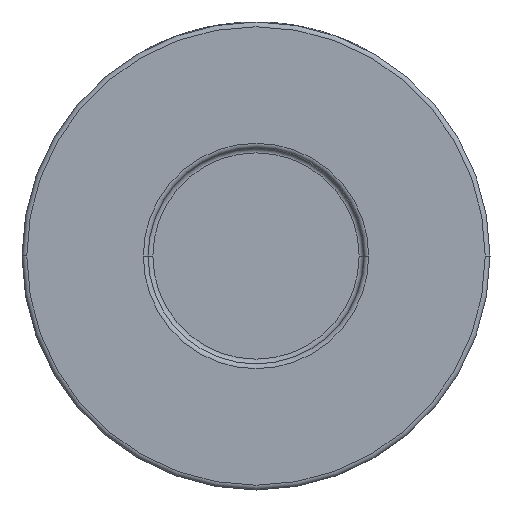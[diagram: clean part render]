
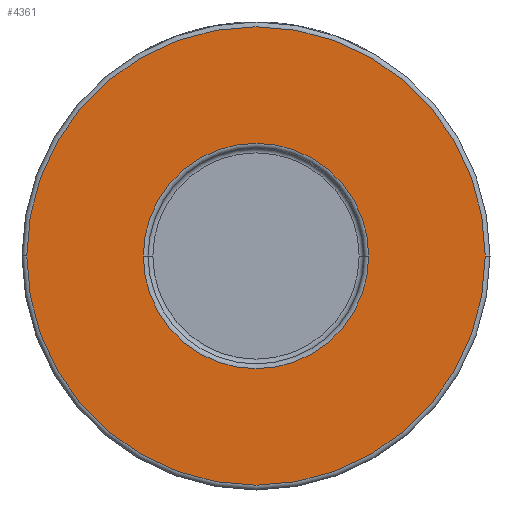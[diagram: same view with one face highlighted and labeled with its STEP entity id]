
A CAD part, front view. The second image highlights one B-rep face of the part: STEP entity #4361.
In plain terms, the highlighted planar face has unit normal (0, -1, 0).
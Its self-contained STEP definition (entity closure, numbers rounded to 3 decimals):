
#49 = FACE_BOUND ( 'NONE', #2276, .T. ) ;
#66 = AXIS2_PLACEMENT_3D ( 'NONE', #641, #1794, #2837 ) ;
#68 = EDGE_LOOP ( 'NONE', ( #570, #4187 ) ) ;
#92 = EDGE_CURVE ( 'NONE', #3881, #2507, #2479, .T. ) ;
#233 = AXIS2_PLACEMENT_3D ( 'NONE', #2953, #450, #3368 ) ;
#300 = DIRECTION ( 'NONE',  ( 0., 1., 0. ) ) ;
#387 = CIRCLE ( 'NONE', #233, 48. ) ;
#450 = DIRECTION ( 'NONE',  ( 0., -1., 0. ) ) ;
#490 = CARTESIAN_POINT ( 'NONE',  ( 49., -32., 0. ) ) ;
#570 = ORIENTED_EDGE ( 'NONE', *, *, #2323, .T. ) ;
#641 = CARTESIAN_POINT ( 'NONE',  ( 0., -32., 0. ) ) ;
#1279 = EDGE_CURVE ( 'NONE', #4058, #1418, #3206, .T. ) ;
#1395 = EDGE_CURVE ( 'NONE', #1418, #4058, #3712, .T. ) ;
#1418 = VERTEX_POINT ( 'NONE', #1645 ) ;
#1592 = CARTESIAN_POINT ( 'NONE',  ( 0., -32., 0. ) ) ;
#1645 = CARTESIAN_POINT ( 'NONE',  ( 23.6, -32., 0. ) ) ;
#1794 = DIRECTION ( 'NONE',  ( 0., -1., 0. ) ) ;
#2276 = EDGE_LOOP ( 'NONE', ( #3399, #4659 ) ) ;
#2323 = EDGE_CURVE ( 'NONE', #2507, #3881, #387, .T. ) ;
#2348 = AXIS2_PLACEMENT_3D ( 'NONE', #490, #3367, #2926 ) ;
#2417 = CARTESIAN_POINT ( 'NONE',  ( 0., -32., 0. ) ) ;
#2440 = CARTESIAN_POINT ( 'NONE',  ( -48., -32., 0. ) ) ;
#2479 = CIRCLE ( 'NONE', #66, 48. ) ;
#2507 = VERTEX_POINT ( 'NONE', #4155 ) ;
#2777 = DIRECTION ( 'NONE',  ( 1., 0., 0. ) ) ;
#2837 = DIRECTION ( 'NONE',  ( 1., 0., 0. ) ) ;
#2926 = DIRECTION ( 'NONE',  ( 1., 0., 0. ) ) ;
#2953 = CARTESIAN_POINT ( 'NONE',  ( 0., -32., 0. ) ) ;
#3084 = DIRECTION ( 'NONE',  ( 0., 1., 0. ) ) ;
#3185 = DIRECTION ( 'NONE',  ( 1., 0., 0. ) ) ;
#3206 = CIRCLE ( 'NONE', #4090, 23.6 ) ;
#3367 = DIRECTION ( 'NONE',  ( 0., -1., 0. ) ) ;
#3368 = DIRECTION ( 'NONE',  ( 1., 0., 0. ) ) ;
#3399 = ORIENTED_EDGE ( 'NONE', *, *, #1395, .T. ) ;
#3712 = CIRCLE ( 'NONE', #4633, 23.6 ) ;
#3720 = PLANE ( 'NONE',  #2348 ) ;
#3881 = VERTEX_POINT ( 'NONE', #2440 ) ;
#4058 = VERTEX_POINT ( 'NONE', #4398 ) ;
#4076 = FACE_OUTER_BOUND ( 'NONE', #68, .T. ) ;
#4090 = AXIS2_PLACEMENT_3D ( 'NONE', #1592, #3084, #2777 ) ;
#4155 = CARTESIAN_POINT ( 'NONE',  ( 48., -32., 0. ) ) ;
#4187 = ORIENTED_EDGE ( 'NONE', *, *, #92, .T. ) ;
#4361 = ADVANCED_FACE ( 'NONE', ( #49, #4076 ), #3720, .T. ) ;
#4398 = CARTESIAN_POINT ( 'NONE',  ( -23.6, -32., 0. ) ) ;
#4633 = AXIS2_PLACEMENT_3D ( 'NONE', #2417, #300, #3185 ) ;
#4659 = ORIENTED_EDGE ( 'NONE', *, *, #1279, .T. ) ;
